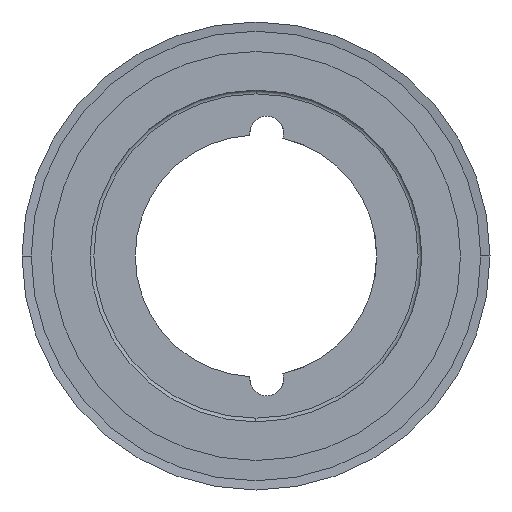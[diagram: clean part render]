
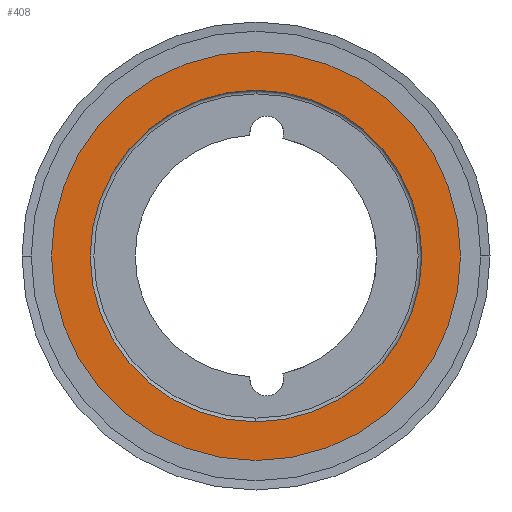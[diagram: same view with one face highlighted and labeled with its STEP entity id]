
A CAD part, left-side view. The second image highlights one B-rep face of the part: STEP entity #408.
In plain terms, the highlighted planar face has unit normal (-1, 0, 0).
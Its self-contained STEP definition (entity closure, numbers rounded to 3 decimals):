
#408 = ADVANCED_FACE( '', ( #1083, #1084 ), #1085, .T. );
#1083 = FACE_BOUND( '', #1759, .T. );
#1084 = FACE_OUTER_BOUND( '', #1760, .T. );
#1085 = PLANE( '', #1761 );
#1759 = EDGE_LOOP( '', ( #4697, #4698 ) );
#1760 = EDGE_LOOP( '', ( #4699, #4700 ) );
#1761 = AXIS2_PLACEMENT_3D( '', #4701, #4702, #4703 );
#4697 = ORIENTED_EDGE( '', *, *, #5664, .F. );
#4698 = ORIENTED_EDGE( '', *, *, #4729, .F. );
#4699 = ORIENTED_EDGE( '', *, *, #4707, .T. );
#4700 = ORIENTED_EDGE( '', *, *, #5673, .T. );
#4701 = CARTESIAN_POINT( '', ( 0., 50.25, 0. ) );
#4702 = DIRECTION( '', ( -1., 0., 0. ) );
#4703 = DIRECTION( '', ( 0., 1., 0. ) );
#4707 = EDGE_CURVE( '', #5675, #5679, #5681, .T. );
#4729 = EDGE_CURVE( '', #5721, #5718, #5723, .T. );
#5664 = EDGE_CURVE( '', #5718, #5721, #7276, .T. );
#5673 = EDGE_CURVE( '', #5679, #5675, #7287, .T. );
#5675 = VERTEX_POINT( '', #7289 );
#5679 = VERTEX_POINT( '', #7294 );
#5681 = CIRCLE( '', #7297, 55.5 );
#5718 = VERTEX_POINT( '', #7338 );
#5721 = VERTEX_POINT( '', #7342 );
#5723 = CIRCLE( '', #7345, 45. );
#7276 = CIRCLE( '', #9538, 45. );
#7287 = CIRCLE( '', #9549, 55.5 );
#7289 = CARTESIAN_POINT( '', ( 0., 55.5, 0. ) );
#7294 = CARTESIAN_POINT( '', ( 0., -55.5, 0. ) );
#7297 = AXIS2_PLACEMENT_3D( '', #9555, #9556, #9557 );
#7338 = CARTESIAN_POINT( '', ( 0., 45., 0. ) );
#7342 = CARTESIAN_POINT( '', ( 0., -45., 0. ) );
#7345 = AXIS2_PLACEMENT_3D( '', #9609, #9610, #9611 );
#9538 = AXIS2_PLACEMENT_3D( '', #11378, #11379, #11380 );
#9549 = AXIS2_PLACEMENT_3D( '', #11405, #11406, #11407 );
#9555 = CARTESIAN_POINT( '', ( 0., 0., 0. ) );
#9556 = DIRECTION( '', ( -1., 0., 0. ) );
#9557 = DIRECTION( '', ( 0., 1., 0. ) );
#9609 = CARTESIAN_POINT( '', ( 0., 0., 0. ) );
#9610 = DIRECTION( '', ( -1., 0., 0. ) );
#9611 = DIRECTION( '', ( 0., 1., 0. ) );
#11378 = CARTESIAN_POINT( '', ( 0., 0., 0. ) );
#11379 = DIRECTION( '', ( -1., 0., 0. ) );
#11380 = DIRECTION( '', ( 0., 1., 0. ) );
#11405 = CARTESIAN_POINT( '', ( 0., 0., 0. ) );
#11406 = DIRECTION( '', ( -1., 0., 0. ) );
#11407 = DIRECTION( '', ( 0., 1., 0. ) );
